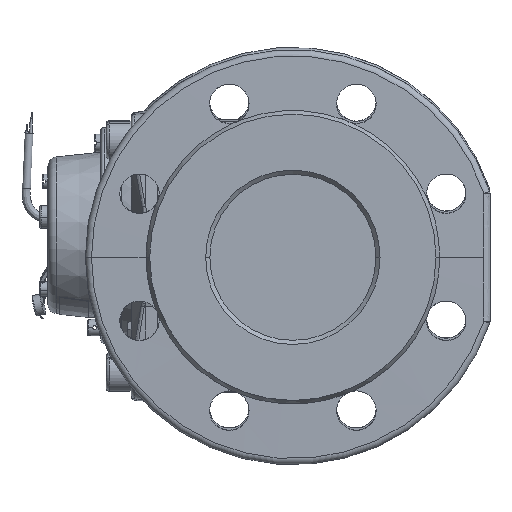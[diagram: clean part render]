
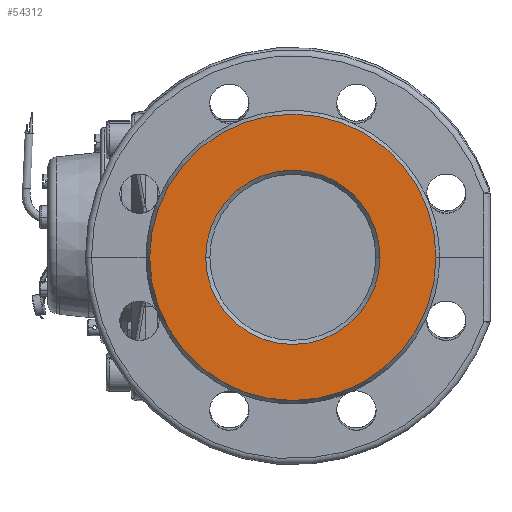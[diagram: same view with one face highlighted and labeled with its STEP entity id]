
A CAD part, left-side view. The second image highlights one B-rep face of the part: STEP entity #54312.
In plain terms, the highlighted planar face has unit normal (-1, 0, -0.006).
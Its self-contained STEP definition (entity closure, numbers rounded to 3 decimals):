
#2134 = CARTESIAN_POINT ( 'NONE',  ( 50.775, 98.683, -2.96 ) ) ;
#2616 = AXIS2_PLACEMENT_3D ( 'NONE', #70837, #12353, #93678 ) ;
#6843 = AXIS2_PLACEMENT_3D ( 'NONE', #40852, #85683, #49618 ) ;
#11945 = EDGE_CURVE ( 'NONE', #18518, #59282, #47250, .T. ) ;
#12278 = CARTESIAN_POINT ( 'NONE',  ( 50.775, 140.683, -2.96 ) ) ;
#12353 = DIRECTION ( 'NONE',  ( 1., 0., 0.006 ) ) ;
#15642 = EDGE_LOOP ( 'NONE', ( #96310, #83915 ) ) ;
#18518 = VERTEX_POINT ( 'NONE', #45457 ) ;
#19268 = CIRCLE ( 'NONE', #6843, 69. ) ;
#19423 = VERTEX_POINT ( 'NONE', #12278 ) ;
#19647 = FACE_BOUND ( 'NONE', #48322, .T. ) ;
#25137 = DIRECTION ( 'NONE',  ( 0., 1., 0. ) ) ;
#25489 = PLANE ( 'NONE',  #2616 ) ;
#25833 = EDGE_CURVE ( 'NONE', #19423, #76808, #65559, .T. ) ;
#27188 = DIRECTION ( 'NONE',  ( 0., 1., 0. ) ) ;
#29089 = DIRECTION ( 'NONE',  ( 1., 0., 0.006 ) ) ;
#31428 = ORIENTED_EDGE ( 'NONE', *, *, #25833, .T. ) ;
#40852 = CARTESIAN_POINT ( 'NONE',  ( 50.775, 98.683, -2.96 ) ) ;
#45457 = CARTESIAN_POINT ( 'NONE',  ( 50.775, 167.683, -2.96 ) ) ;
#47250 = CIRCLE ( 'NONE', #81479, 69. ) ;
#48322 = EDGE_LOOP ( 'NONE', ( #55760, #31428 ) ) ;
#49618 = DIRECTION ( 'NONE',  ( 0., 1., 0. ) ) ;
#53949 = DIRECTION ( 'NONE',  ( 1., 0., 0.006 ) ) ;
#54312 = ADVANCED_FACE ( 'NONE', ( #71322, #19647 ), #25489, .F. ) ;
#55760 = ORIENTED_EDGE ( 'NONE', *, *, #74220, .T. ) ;
#59282 = VERTEX_POINT ( 'NONE', #75524 ) ;
#65559 = CIRCLE ( 'NONE', #74878, 42. ) ;
#70837 = CARTESIAN_POINT ( 'NONE',  ( 50.54, 98.683, 39.04 ) ) ;
#71322 = FACE_OUTER_BOUND ( 'NONE', #15642, .T. ) ;
#74220 = EDGE_CURVE ( 'NONE', #76808, #19423, #90680, .T. ) ;
#74878 = AXIS2_PLACEMENT_3D ( 'NONE', #92395, #53949, #25137 ) ;
#75524 = CARTESIAN_POINT ( 'NONE',  ( 50.775, 29.683, -2.96 ) ) ;
#76808 = VERTEX_POINT ( 'NONE', #95663 ) ;
#80818 = CARTESIAN_POINT ( 'NONE',  ( 50.775, 98.683, -2.96 ) ) ;
#81479 = AXIS2_PLACEMENT_3D ( 'NONE', #2134, #83956, #85380 ) ;
#82585 = EDGE_CURVE ( 'NONE', #59282, #18518, #19268, .T. ) ;
#82906 = AXIS2_PLACEMENT_3D ( 'NONE', #80818, #29089, #27188 ) ;
#83915 = ORIENTED_EDGE ( 'NONE', *, *, #82585, .F. ) ;
#83956 = DIRECTION ( 'NONE',  ( 1., 0., 0.006 ) ) ;
#85380 = DIRECTION ( 'NONE',  ( 0., 1., 0. ) ) ;
#85683 = DIRECTION ( 'NONE',  ( 1., 0., 0.006 ) ) ;
#90680 = CIRCLE ( 'NONE', #82906, 42. ) ;
#92395 = CARTESIAN_POINT ( 'NONE',  ( 50.775, 98.683, -2.96 ) ) ;
#93678 = DIRECTION ( 'NONE',  ( 0., 1., 0. ) ) ;
#95663 = CARTESIAN_POINT ( 'NONE',  ( 50.775, 56.683, -2.96 ) ) ;
#96310 = ORIENTED_EDGE ( 'NONE', *, *, #11945, .F. ) ;
